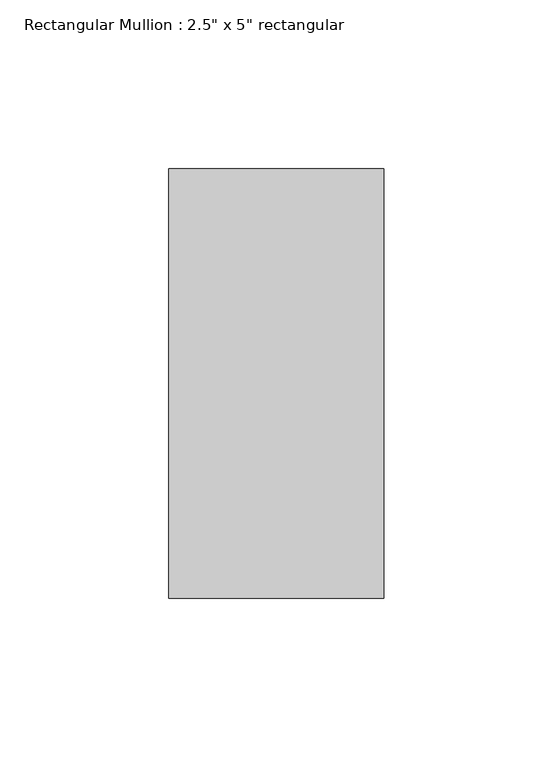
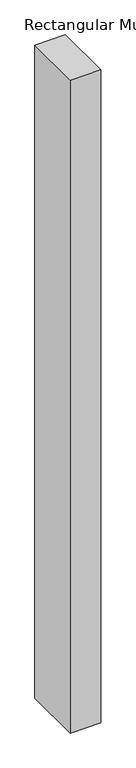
"""IFC4 building model written with IfcOpenShell, lengths in millimetres: member geometry."""

from ifc_helpers import new_model, si_unit, frame, origin, place, context, project, spatial, polyline, outline, extrude, source, transform, mapped, element, save


def member_702f5cc0(model_context):
    return source(origin(), model_context, "Body", "SweptSolid", [
        extrude(outline(polyline([(0.0, 50.8), (0.0, -76.2), (-63.5, -76.2), (-63.5, 50.8), (0.0, 50.8)])), frame((0.0, 0.0, -1433.7392857), z_axis=(0.0, 0.0, 1.0), x_axis=(1.0, 0.0, 0.0)), (0.0, 0.0, 1.0), 1433.7392857),
    ])


if __name__ == "__main__":
    model = new_model("IFC4")
    model_context = context("Model", 3, world=origin())
    ifc_project = project(units=[si_unit("LENGTHUNIT", "METRE", prefix="MILLI")], contexts=[model_context])
    site = spatial("IfcSite", under=ifc_project)
    building = spatial("IfcBuilding", under=site)
    placement = place(None, origin())
    member_shape = member_702f5cc0(model_context)
    element("IfcMember", 1, ObjectType="Rectangular Mullion : 2.5\" x 5\" rectangular", at=placement, inside=building, context=model_context, shape_type="MappedRepresentation", body=[
        mapped(member_shape, transform((0.0, 0.0, 0.0), x_axis=(1.0, 0.0, 0.0), y_axis=(0.0, 1.0, 0.0), z_axis=(0.0, 0.0, 1.0))),
    ])
    save(model, "model.ifc")
